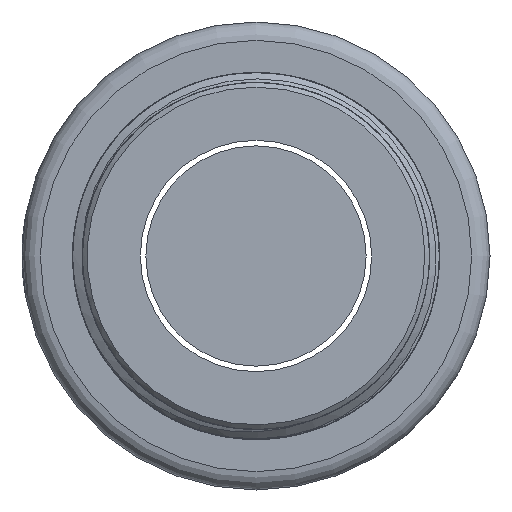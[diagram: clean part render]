
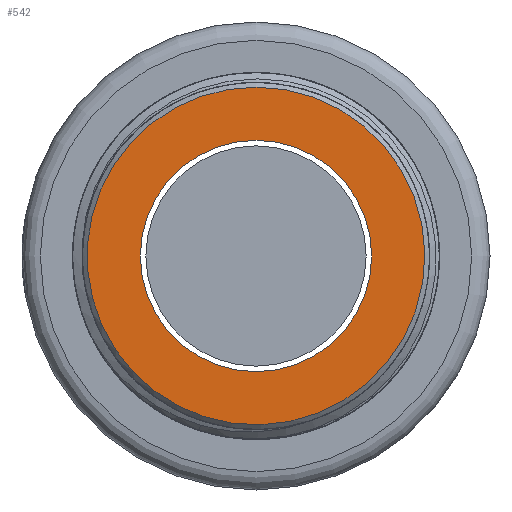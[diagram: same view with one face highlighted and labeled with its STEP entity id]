
A CAD part, left-side view. The second image highlights one B-rep face of the part: STEP entity #542.
In plain terms, the highlighted planar face has unit normal (-1, 0, 0).
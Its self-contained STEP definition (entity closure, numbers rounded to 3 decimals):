
#347 = FACE_OUTER_BOUND ( 'NONE', #1794, .T. ) ;
#476 = CARTESIAN_POINT ( 'NONE',  ( -34., 10., 0. ) ) ;
#529 = CIRCLE ( 'NONE', #1898, 6.3 ) ;
#542 = ADVANCED_FACE ( 'NONE', ( #347, #1482 ), #1985, .T. ) ;
#843 = VERTEX_POINT ( 'NONE', #1208 ) ;
#1004 = EDGE_CURVE ( 'NONE', #1741, #1741, #529, .T. ) ;
#1015 = DIRECTION ( 'NONE',  ( 0., 0., 1. ) ) ;
#1155 = DIRECTION ( 'NONE',  ( 0., 0., -1. ) ) ;
#1182 = CARTESIAN_POINT ( 'NONE',  ( -34., 0., 0. ) ) ;
#1208 = CARTESIAN_POINT ( 'NONE',  ( -34., 0., 9.2 ) ) ;
#1311 = DIRECTION ( 'NONE',  ( -1., 0., 0. ) ) ;
#1347 = DIRECTION ( 'NONE',  ( 1., 0., 0. ) ) ;
#1436 = ORIENTED_EDGE ( 'NONE', *, *, #1004, .T. ) ;
#1460 = EDGE_LOOP ( 'NONE', ( #1436 ) ) ;
#1467 = ORIENTED_EDGE ( 'NONE', *, *, #1553, .T. ) ;
#1482 = FACE_BOUND ( 'NONE', #1460, .T. ) ;
#1487 = DIRECTION ( 'NONE',  ( -1., 0., 0. ) ) ;
#1514 = DIRECTION ( 'NONE',  ( 0., 0., 1. ) ) ;
#1553 = EDGE_CURVE ( 'NONE', #843, #843, #1624, .T. ) ;
#1624 = CIRCLE ( 'NONE', #2177, 9.2 ) ;
#1741 = VERTEX_POINT ( 'NONE', #2023 ) ;
#1794 = EDGE_LOOP ( 'NONE', ( #1467 ) ) ;
#1898 = AXIS2_PLACEMENT_3D ( 'NONE', #1973, #1347, #1155 ) ;
#1936 = AXIS2_PLACEMENT_3D ( 'NONE', #476, #1311, #1015 ) ;
#1973 = CARTESIAN_POINT ( 'NONE',  ( -34., 0., 0. ) ) ;
#1985 = PLANE ( 'NONE',  #1936 ) ;
#2023 = CARTESIAN_POINT ( 'NONE',  ( -34., 0., -6.3 ) ) ;
#2177 = AXIS2_PLACEMENT_3D ( 'NONE', #1182, #1487, #1514 ) ;
